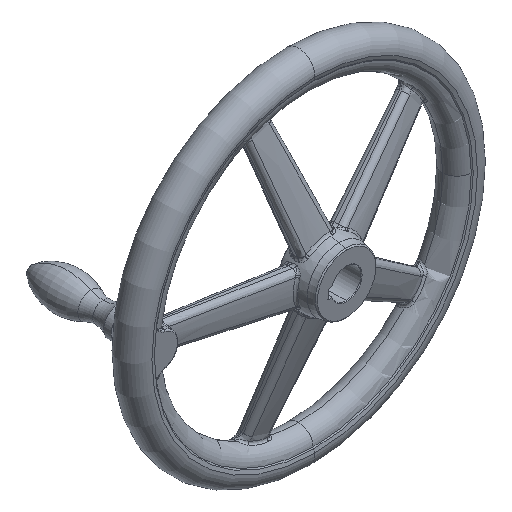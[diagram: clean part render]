
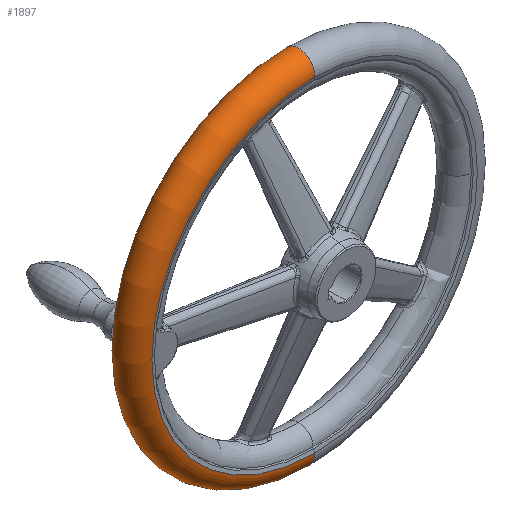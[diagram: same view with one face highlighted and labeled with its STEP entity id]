
A CAD part, isometric view. The second image highlights one B-rep face of the part: STEP entity #1897.
In plain terms, the highlighted toroidal (fillet/blend) face has major radius 143.462 mm and minor radius 14.039 mm.
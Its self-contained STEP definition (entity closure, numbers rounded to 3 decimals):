
#1599 = ORIENTED_EDGE ( 'NONE', *, *, #2950, .F. ) ;
#1698 = ORIENTED_EDGE ( 'NONE', *, *, #2158, .T. ) ;
#1724 = ORIENTED_EDGE ( 'NONE', *, *, #2908, .T. ) ;
#1766 = EDGE_LOOP ( 'NONE', ( #1599, #1698, #1724, #1900 ) ) ;
#1897 = ADVANCED_FACE ( 'NONE', ( #11064 ), #11022, .T. ) ;
#1900 = ORIENTED_EDGE ( 'NONE', *, *, #53251, .F. ) ;
#1965 = VERTEX_POINT ( 'NONE', #11265 ) ;
#2158 = EDGE_CURVE ( 'NONE', #1965, #53444, #13217, .T. ) ;
#2361 = VERTEX_POINT ( 'NONE', #11175 ) ;
#2908 = EDGE_CURVE ( 'NONE', #53444, #2361, #16864, .T. ) ;
#2950 = EDGE_CURVE ( 'NONE', #1965, #49399, #17301, .T. ) ;
#11016 = DIRECTION ( 'NONE',  ( 0., 0., -1. ) ) ;
#11018 = DIRECTION ( 'NONE',  ( 0., -1., 0. ) ) ;
#11020 = AXIS2_PLACEMENT_3D ( 'NONE', #11063, #11018, #11016 ) ;
#11022 = TOROIDAL_SURFACE ( 'NONE', #11020, 143.462, 14.038 ) ;
#11063 = CARTESIAN_POINT ( 'NONE',  ( 0., 42., 0. ) ) ;
#11064 = FACE_OUTER_BOUND ( 'NONE', #1766, .T. ) ;
#11175 = CARTESIAN_POINT ( 'NONE',  ( 0., 28., -142.423 ) ) ;
#11265 = CARTESIAN_POINT ( 'NONE',  ( 0., 56., 142.423 ) ) ;
#13199 = DIRECTION ( 'NONE',  ( 0., 0., -1. ) ) ;
#13200 = DIRECTION ( 'NONE',  ( 0., -1., 0. ) ) ;
#13202 = AXIS2_PLACEMENT_3D ( 'NONE', #13208, #13200, #13199 ) ;
#13208 = CARTESIAN_POINT ( 'NONE',  ( 0., 56., 0. ) ) ;
#13217 = CIRCLE ( 'NONE', #13202, 142.423 ) ;
#16835 = CARTESIAN_POINT ( 'NONE',  ( 0., 42., -143.462 ) ) ;
#16839 = AXIS2_PLACEMENT_3D ( 'NONE', #16835, #16986, #16984 ) ;
#16864 = CIRCLE ( 'NONE', #16839, 14.038 ) ;
#16984 = DIRECTION ( 'NONE',  ( 0., 0., 1. ) ) ;
#16986 = DIRECTION ( 'NONE',  ( -1., 0., 0. ) ) ;
#17287 = DIRECTION ( 'NONE',  ( 0., 0., -1. ) ) ;
#17289 = DIRECTION ( 'NONE',  ( 1., 0., 0. ) ) ;
#17291 = CARTESIAN_POINT ( 'NONE',  ( 0., 42., 143.462 ) ) ;
#17293 = AXIS2_PLACEMENT_3D ( 'NONE', #17291, #17289, #17287 ) ;
#17301 = CIRCLE ( 'NONE', #17293, 14.038 ) ;
#28845 = CARTESIAN_POINT ( 'NONE',  ( 0., 28., 142.423 ) ) ;
#31757 = DIRECTION ( 'NONE',  ( 0., -1., 0. ) ) ;
#31758 = CARTESIAN_POINT ( 'NONE',  ( 0., 28., 0. ) ) ;
#31761 = CIRCLE ( 'NONE', #31810, 142.423 ) ;
#31803 = DIRECTION ( 'NONE',  ( 0., 0., -1. ) ) ;
#31810 = AXIS2_PLACEMENT_3D ( 'NONE', #31758, #31757, #31803 ) ;
#38431 = CARTESIAN_POINT ( 'NONE',  ( 0., 56., -142.423 ) ) ;
#49399 = VERTEX_POINT ( 'NONE', #28845 ) ;
#53251 = EDGE_CURVE ( 'NONE', #49399, #2361, #31761, .T. ) ;
#53444 = VERTEX_POINT ( 'NONE', #38431 ) ;
